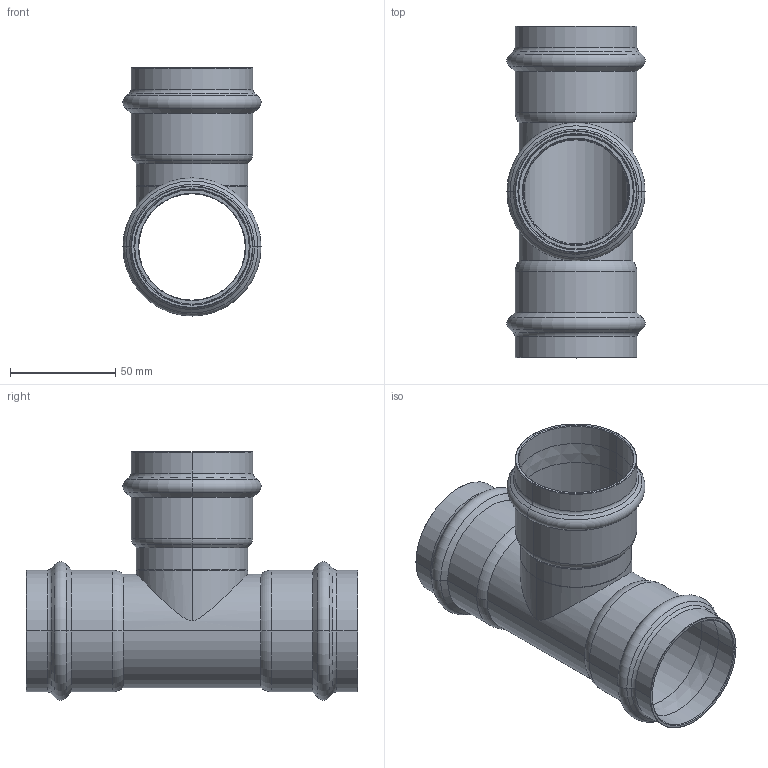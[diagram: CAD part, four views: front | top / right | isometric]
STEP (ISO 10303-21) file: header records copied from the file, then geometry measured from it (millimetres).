
FILE_DESCRIPTION(('CoCreate Modeling STEP Export'),'2;1');
FILE_NAME('8130VW54.stp','2013-01-29T16:23:01',(''),(''),'CoCreate Modeling STEP processor for AP214 (Solid Model)','CoCreate Modeling 17.00A 17-Jun-2010 (C) Parametric Technology GmbH','');
FILE_SCHEMA(('AUTOMOTIVE_DESIGN { 1 0 10303 214 1 1 1 1 }'));
Length unit declared in the file: millimetre
Products named in the file (1): 8130VW54
Bounding box: 65.68 x 157.73 x 117.93 mm (x, y, z)
Volume: 76828 mm3; surface area: 77172.4 mm2
Topology: 1 solids, 1 shells, 128 faces, 265 edges, 147 vertices
Faces by surface type: cylinder 42, cone 38, torus 36, plane 10, bspline 2
Entity records: 6681 total; most frequent: CARTESIAN_POINT 4372, ORIENTED_EDGE 530, DIRECTION 424, EDGE_CURVE 265, AXIS2_PLACEMENT_3D 172, VERTEX_POINT 147, EDGE_LOOP 140, FACE_OUTER_BOUND 128
